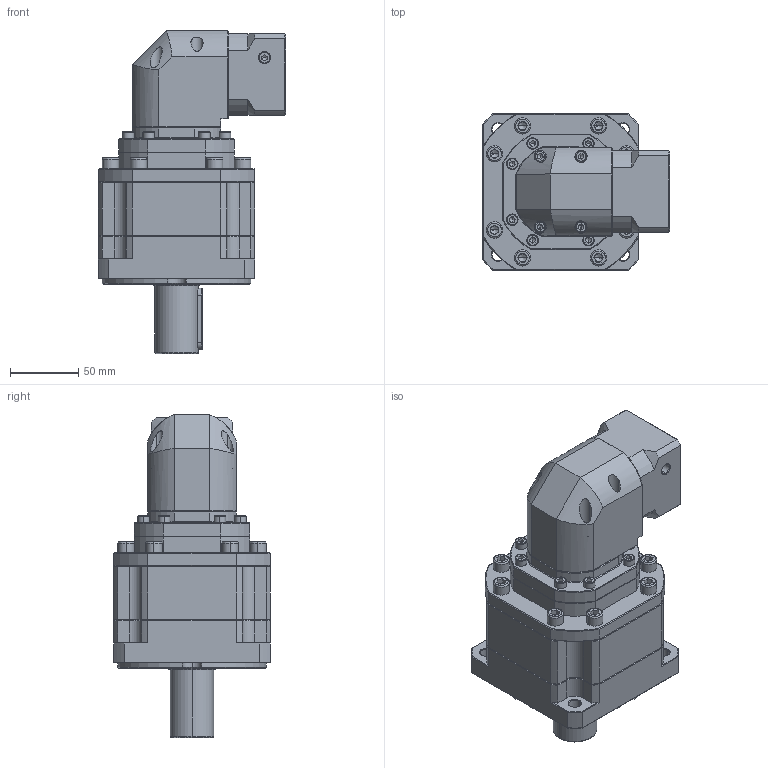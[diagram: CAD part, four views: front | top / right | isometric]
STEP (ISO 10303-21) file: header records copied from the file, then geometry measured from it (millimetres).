
FILE_DESCRIPTION (( 'STEP AP214' ), '1' );
FILE_NAME ('ZBR115A-D32-L3-P2-11-50-70-M5.step', '2023-08-26T14:06:42', ( '' ), ( '' ), 'SwSTEP 2.0', 'SolidWorks 2016', '' );
FILE_SCHEMA (( 'AUTOMOTIVE_DESIGN' ));
Length unit declared in the file: millimetre
Products named in the file (1): ZBR115A-D32-L3-P2-11-50-70-M5
Bounding box: 137.7 x 115 x 237.5 mm (x, y, z)
Volume: 1567477.8 mm3; surface area: 146209.1 mm2
Topology: 6 solids, 6 shells, 2637 faces, 6950 edges, 4433 vertices
Faces by surface type: plane 1299, cylinder 485, bspline 443, cone 390, torus 20
Entity records: 137041 total; most frequent: CARTESIAN_POINT 46376, ORIENTED_EDGE 13776, DIRECTION 11221, EDGE_CURVE 6888, VERTEX_POINT 4433, VECTOR 4365, LINE 4365, AXIS2_PLACEMENT_3D 3428
